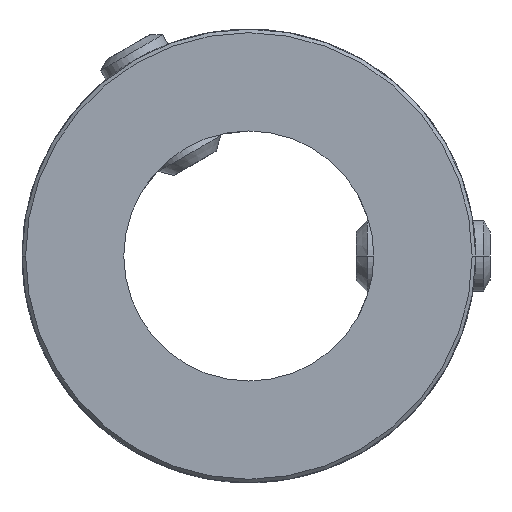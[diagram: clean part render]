
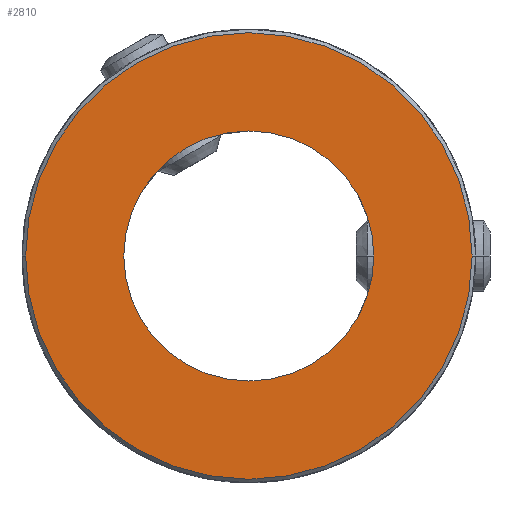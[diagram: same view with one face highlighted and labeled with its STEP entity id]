
A CAD part, front view. The second image highlights one B-rep face of the part: STEP entity #2810.
In plain terms, the highlighted planar face has unit normal (0, -1, 0).
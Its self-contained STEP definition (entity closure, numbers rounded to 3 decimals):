
#1=CARTESIAN_POINT('',(0.,-47.65,
0.));
#2=DIRECTION('',(0.,-1.,0.));
#3=DIRECTION('',(-1.,0.,0.));
#4=AXIS2_PLACEMENT_3D('',#1,#2,#3);
#6=CARTESIAN_POINT('',(0.,-47.65,
0.));
#7=DIRECTION('',(0.,-1.,0.));
#8=DIRECTION('',(1.,0.,0.));
#9=AXIS2_PLACEMENT_3D('',#6,#7,#8);
#11=CARTESIAN_POINT('',(0.,-47.65,0.));
#12=DIRECTION('',(0.,1.,0.));
#13=DIRECTION('',(1.,0.,0.));
#14=AXIS2_PLACEMENT_3D('',#11,#12,#13);
#16=CARTESIAN_POINT('',(0.,-47.65,0.));
#17=DIRECTION('',(0.,1.,0.));
#18=DIRECTION('',(-1.,0.,0.));
#19=AXIS2_PLACEMENT_3D('',#16,#17,#18);
#2571=CARTESIAN_POINT('',(14.,-47.65,0.));
#2572=CARTESIAN_POINT('',(-14.,-47.65,0.));
#2573=VERTEX_POINT('',#2571);
#2574=VERTEX_POINT('',#2572);
#2599=CARTESIAN_POINT('',(-25.,-47.65,0.));
#2600=CARTESIAN_POINT('',(25.,-47.65,
0.));
#2601=VERTEX_POINT('',#2599);
#2602=VERTEX_POINT('',#2600);
#2793=CARTESIAN_POINT('',(0.,-47.65,0.));
#2794=DIRECTION('',(0.,1.,0.));
#2795=DIRECTION('',(1.,0.,0.));
#2796=AXIS2_PLACEMENT_3D('',#2793,#2794,#2795);
#2797=PLANE('',#2796);
#2799=ORIENTED_EDGE('',*,*,#2798,.F.);
#2801=ORIENTED_EDGE('',*,*,#2800,.F.);
#2802=EDGE_LOOP('',(#2799,#2801));
#2803=FACE_OUTER_BOUND('',#2802,.F.);
#2805=ORIENTED_EDGE('',*,*,#2804,.F.);
#2807=ORIENTED_EDGE('',*,*,#2806,.F.);
#2808=EDGE_LOOP('',(#2805,#2807));
#2809=FACE_BOUND('',#2808,.F.);
#2810=ADVANCED_FACE('',(#2803,#2809),#2797,.F.);
#5=CIRCLE('',#4,25.);
#10=CIRCLE('',#9,25.);
#15=CIRCLE('',#14,14.);
#20=CIRCLE('',#19,14.);
#2798=EDGE_CURVE('',#2601,#2602,#5,.T.);
#2800=EDGE_CURVE('',#2602,#2601,#10,.T.);
#2804=EDGE_CURVE('',#2573,#2574,#15,.T.);
#2806=EDGE_CURVE('',#2574,#2573,#20,.T.);
